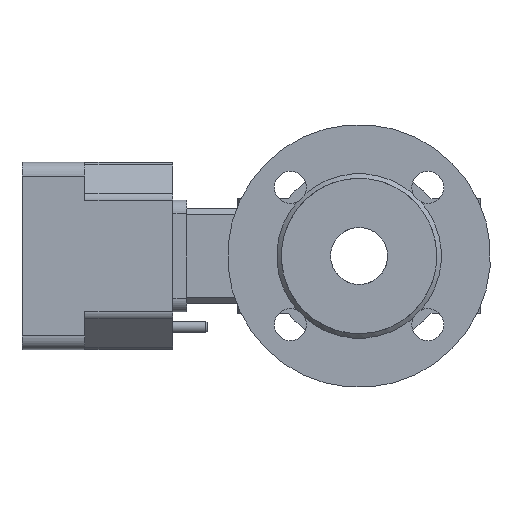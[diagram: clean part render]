
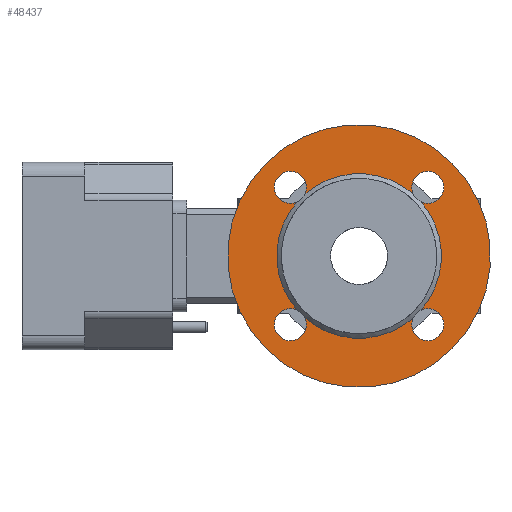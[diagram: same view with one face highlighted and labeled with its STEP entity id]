
A CAD part, left-side view. The second image highlights one B-rep face of the part: STEP entity #48437.
In plain terms, the highlighted planar face has unit normal (-1, 0, 0).
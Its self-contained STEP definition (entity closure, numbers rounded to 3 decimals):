
#11452=FACE_BOUND('',#14407,.T.);
#11747=FACE_OUTER_BOUND('',#14406,.T.);
#14406=EDGE_LOOP('',(#30368,#30369));
#14407=EDGE_LOOP('',(#30370,#30371,#30372,#30373,#30374,#30375,#30376,#30377,
#30378,#30379,#30380,#30381));
#17351=CIRCLE('',#51149,7.);
#17352=CIRCLE('',#51150,7.);
#17353=CIRCLE('',#51152,7.);
#17354=CIRCLE('',#51153,7.);
#17355=CIRCLE('',#51155,7.);
#17356=CIRCLE('',#51156,7.);
#17357=CIRCLE('',#51158,36.);
#17358=CIRCLE('',#51159,36.);
#17359=CIRCLE('',#51160,36.);
#17360=CIRCLE('',#51161,36.);
#17361=CIRCLE('',#51163,7.);
#17362=CIRCLE('',#51164,7.);
#17363=CIRCLE('',#51166,57.5);
#17364=CIRCLE('',#51167,57.5);
#18704=VERTEX_POINT('',#66526);
#18705=VERTEX_POINT('',#66527);
#18706=VERTEX_POINT('',#66538);
#18707=VERTEX_POINT('',#66543);
#18708=VERTEX_POINT('',#66544);
#18709=VERTEX_POINT('',#66555);
#18710=VERTEX_POINT('',#66560);
#18712=VERTEX_POINT('',#66568);
#18713=VERTEX_POINT('',#66571);
#18714=VERTEX_POINT('',#66583);
#18715=VERTEX_POINT('',#66585);
#18716=VERTEX_POINT('',#66598);
#18717=VERTEX_POINT('',#66603);
#18718=VERTEX_POINT('',#66604);
#23306=EDGE_CURVE('',#18706,#18704,#17351,.T.);
#23308=EDGE_CURVE('',#18705,#18706,#17352,.T.);
#23310=EDGE_CURVE('',#18709,#18707,#17353,.T.);
#23312=EDGE_CURVE('',#18708,#18709,#17354,.T.);
#23314=EDGE_CURVE('',#18712,#18710,#17355,.T.);
#23316=EDGE_CURVE('',#18713,#18712,#17356,.T.);
#23318=EDGE_CURVE('',#18707,#18705,#17357,.T.);
#23319=EDGE_CURVE('',#18710,#18708,#17358,.T.);
#23321=EDGE_CURVE('',#18714,#18713,#17359,.T.);
#23323=EDGE_CURVE('',#18704,#18715,#17360,.T.);
#23324=EDGE_CURVE('',#18716,#18714,#17361,.T.);
#23326=EDGE_CURVE('',#18715,#18716,#17362,.T.);
#23327=EDGE_CURVE('',#18717,#18718,#17363,.T.);
#23328=EDGE_CURVE('',#18718,#18717,#17364,.T.);
#30368=ORIENTED_EDGE('',*,*,#23327,.F.);
#30369=ORIENTED_EDGE('',*,*,#23328,.F.);
#30370=ORIENTED_EDGE('',*,*,#23308,.T.);
#30371=ORIENTED_EDGE('',*,*,#23306,.T.);
#30372=ORIENTED_EDGE('',*,*,#23323,.T.);
#30373=ORIENTED_EDGE('',*,*,#23326,.T.);
#30374=ORIENTED_EDGE('',*,*,#23324,.T.);
#30375=ORIENTED_EDGE('',*,*,#23321,.T.);
#30376=ORIENTED_EDGE('',*,*,#23316,.T.);
#30377=ORIENTED_EDGE('',*,*,#23314,.T.);
#30378=ORIENTED_EDGE('',*,*,#23319,.T.);
#30379=ORIENTED_EDGE('',*,*,#23312,.T.);
#30380=ORIENTED_EDGE('',*,*,#23310,.T.);
#30381=ORIENTED_EDGE('',*,*,#23318,.T.);
#44293=PLANE('',#51165);
#48437=ADVANCED_FACE('',(#11747,#11452),#44293,.T.);
#51149=AXIS2_PLACEMENT_3D('',#66539,#54750,#54751);
#51150=AXIS2_PLACEMENT_3D('',#66541,#54753,#54754);
#51152=AXIS2_PLACEMENT_3D('',#66556,#54757,#54758);
#51153=AXIS2_PLACEMENT_3D('',#66558,#54760,#54761);
#51155=AXIS2_PLACEMENT_3D('',#66569,#54764,#54765);
#51156=AXIS2_PLACEMENT_3D('',#66572,#54767,#54768);
#51158=AXIS2_PLACEMENT_3D('',#66580,#54771,#54772);
#51159=AXIS2_PLACEMENT_3D('',#66581,#54773,#54774);
#51160=AXIS2_PLACEMENT_3D('',#66584,#54776,#54777);
#51161=AXIS2_PLACEMENT_3D('',#66596,#54778,#54779);
#51163=AXIS2_PLACEMENT_3D('',#66599,#54782,#54783);
#51164=AXIS2_PLACEMENT_3D('',#66601,#54785,#54786);
#51165=AXIS2_PLACEMENT_3D('',#66602,#54787,#54788);
#51166=AXIS2_PLACEMENT_3D('',#66605,#54789,#54790);
#51167=AXIS2_PLACEMENT_3D('',#66606,#54791,#54792);
#54750=DIRECTION('center_axis',(1.,0.,0.));
#54751=DIRECTION('ref_axis',(0.,0.707,-0.707));
#54753=DIRECTION('center_axis',(1.,0.,0.));
#54754=DIRECTION('ref_axis',(0.,0.707,-0.707));
#54757=DIRECTION('center_axis',(1.,0.,0.));
#54758=DIRECTION('ref_axis',(0.,-0.707,-0.707));
#54760=DIRECTION('center_axis',(1.,0.,0.));
#54761=DIRECTION('ref_axis',(0.,-0.707,-0.707));
#54764=DIRECTION('center_axis',(1.,0.,0.));
#54765=DIRECTION('ref_axis',(0.,-0.707,0.707));
#54767=DIRECTION('center_axis',(1.,0.,0.));
#54768=DIRECTION('ref_axis',(0.,-0.707,0.707));
#54771=DIRECTION('center_axis',(1.,0.,0.));
#54772=DIRECTION('ref_axis',(0.,-0.707,-0.707));
#54773=DIRECTION('center_axis',(1.,0.,0.));
#54774=DIRECTION('ref_axis',(0.,-0.707,-0.707));
#54776=DIRECTION('center_axis',(1.,0.,0.));
#54777=DIRECTION('ref_axis',(0.,-0.707,-0.707));
#54778=DIRECTION('center_axis',(1.,0.,0.));
#54779=DIRECTION('ref_axis',(0.,-0.707,-0.707));
#54782=DIRECTION('center_axis',(1.,0.,0.));
#54783=DIRECTION('ref_axis',(0.,0.707,0.707));
#54785=DIRECTION('center_axis',(1.,0.,0.));
#54786=DIRECTION('ref_axis',(0.,0.707,0.707));
#54787=DIRECTION('center_axis',(-1.,0.,0.));
#54788=DIRECTION('ref_axis',(0.,0.707,-0.707));
#54789=DIRECTION('center_axis',(1.,0.,0.));
#54790=DIRECTION('ref_axis',(0.,-0.707,-0.707));
#54791=DIRECTION('center_axis',(1.,0.,0.));
#54792=DIRECTION('ref_axis',(0.,-0.707,-0.707));
#66526=CARTESIAN_POINT('',(-91.5,-23.71,-27.09));
#66527=CARTESIAN_POINT('',(-91.5,-27.09,-23.71));
#66538=CARTESIAN_POINT('',(-91.5,-35.002,-25.102));
#66539=CARTESIAN_POINT('Origin',(-91.5,-30.052,-30.052));
#66541=CARTESIAN_POINT('Origin',(-91.5,-30.052,-30.052));
#66543=CARTESIAN_POINT('',(-91.5,-27.09,23.71));
#66544=CARTESIAN_POINT('',(-91.5,-23.71,27.09));
#66555=CARTESIAN_POINT('',(-91.5,-25.102,35.002));
#66556=CARTESIAN_POINT('Origin',(-91.5,-30.052,30.052));
#66558=CARTESIAN_POINT('Origin',(-91.5,-30.052,30.052));
#66560=CARTESIAN_POINT('',(-91.5,23.71,27.09));
#66568=CARTESIAN_POINT('',(-91.5,35.002,25.102));
#66569=CARTESIAN_POINT('Origin',(-91.5,30.052,30.052));
#66571=CARTESIAN_POINT('',(-91.5,27.09,23.71));
#66572=CARTESIAN_POINT('Origin',(-91.5,30.052,30.052));
#66580=CARTESIAN_POINT('Origin',(-91.5,0.,
0.));
#66581=CARTESIAN_POINT('Origin',(-91.5,0.,
0.));
#66583=CARTESIAN_POINT('',(-91.5,27.09,-23.71));
#66584=CARTESIAN_POINT('Origin',(-91.5,0.,
0.));
#66585=CARTESIAN_POINT('',(-91.5,23.71,-27.09));
#66596=CARTESIAN_POINT('Origin',(-91.5,0.,
0.));
#66598=CARTESIAN_POINT('',(-91.5,25.102,-35.002));
#66599=CARTESIAN_POINT('Origin',(-91.5,30.052,-30.052));
#66601=CARTESIAN_POINT('Origin',(-91.5,30.052,-30.052));
#66602=CARTESIAN_POINT('Origin',(-91.5,-33.057,-33.057));
#66603=CARTESIAN_POINT('',(-91.5,-40.659,-40.659));
#66604=CARTESIAN_POINT('',(-91.5,40.659,40.659));
#66605=CARTESIAN_POINT('Origin',(-91.5,0.,
0.));
#66606=CARTESIAN_POINT('Origin',(-91.5,0.,
0.));
